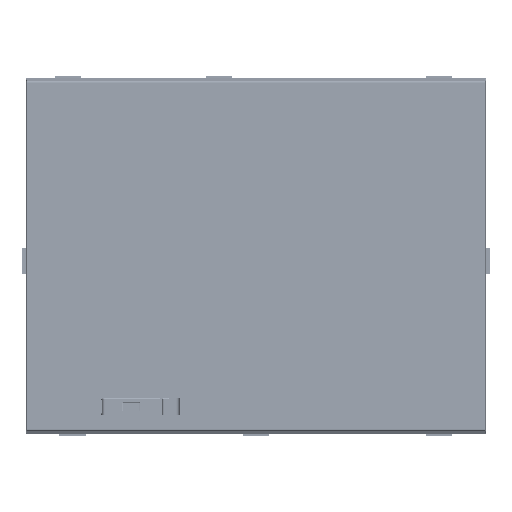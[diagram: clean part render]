
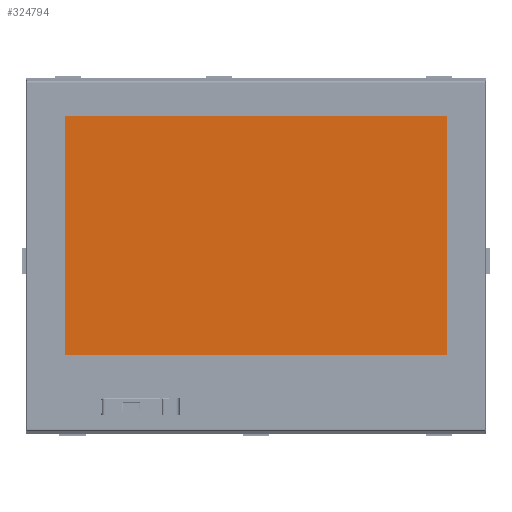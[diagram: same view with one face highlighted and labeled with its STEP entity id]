
A CAD part, top view. The second image highlights one B-rep face of the part: STEP entity #324794.
In plain terms, the highlighted planar face has unit normal (0, 0, 1).
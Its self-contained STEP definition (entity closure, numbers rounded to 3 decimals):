
#125360=DIRECTION('',(0.,1.,0.));
#125361=VECTOR('',#125360,164.2);
#125362=CARTESIAN_POINT('',(-131.06,-68.,-0.1));
#125363=LINE('',#125362,#125361);
#125364=DIRECTION('',(1.,0.,0.));
#125365=VECTOR('',#125364,262.12);
#125366=CARTESIAN_POINT('',(-131.06,96.2,-0.1));
#125367=LINE('',#125366,#125365);
#125368=DIRECTION('',(0.,-1.,0.));
#125369=VECTOR('',#125368,164.2);
#125370=CARTESIAN_POINT('',(131.06,96.2,-0.1));
#125371=LINE('',#125370,#125369);
#125372=DIRECTION('',(-1.,0.,0.));
#125373=VECTOR('',#125372,262.12);
#125374=CARTESIAN_POINT('',(131.06,-68.,-0.1));
#125375=LINE('',#125374,#125373);
#158540=CARTESIAN_POINT('',(-131.06,96.2,-0.1));
#158541=VERTEX_POINT('',#158540);
#158542=CARTESIAN_POINT('',(-131.06,-68.,-0.1));
#158543=VERTEX_POINT('',#158542);
#158544=CARTESIAN_POINT('',(131.06,96.2,-0.1));
#158545=VERTEX_POINT('',#158544);
#158546=CARTESIAN_POINT('',(131.06,-68.,-0.1));
#158547=VERTEX_POINT('',#158546);
#324783=CARTESIAN_POINT('',(0.,0.,-0.1));
#324784=DIRECTION('',(0.,0.,1.));
#324785=DIRECTION('',(1.,0.,0.));
#324786=AXIS2_PLACEMENT_3D('',#324783,#324784,#324785);
#324787=PLANE('',#324786);
#324788=ORIENTED_EDGE('',*,*,#324735,.T.);
#324789=ORIENTED_EDGE('',*,*,#324750,.T.);
#324790=ORIENTED_EDGE('',*,*,#324764,.T.);
#324791=ORIENTED_EDGE('',*,*,#324777,.T.);
#324792=EDGE_LOOP('',(#324788,#324789,#324790,#324791));
#324793=FACE_OUTER_BOUND('',#324792,.F.);
#324794=ADVANCED_FACE('',(#324793),#324787,.T.);
#324735=EDGE_CURVE('',#158543,#158541,#125363,.T.);
#324750=EDGE_CURVE('',#158541,#158545,#125367,.T.);
#324764=EDGE_CURVE('',#158545,#158547,#125371,.T.);
#324777=EDGE_CURVE('',#158547,#158543,#125375,.T.);
